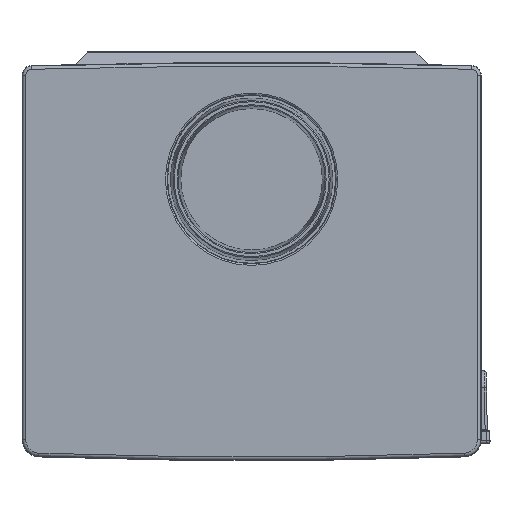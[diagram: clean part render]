
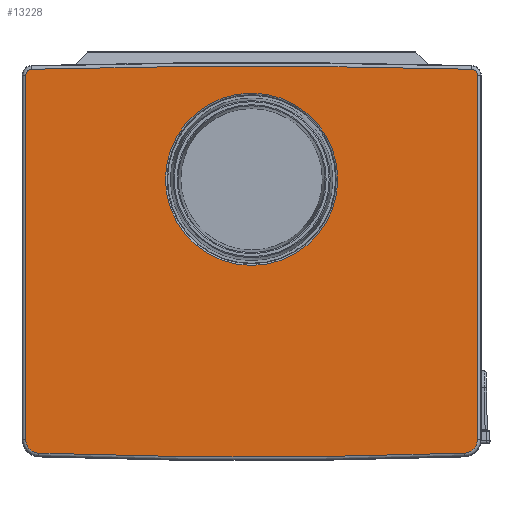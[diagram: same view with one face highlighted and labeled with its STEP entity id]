
A CAD part, top view. The second image highlights one B-rep face of the part: STEP entity #13228.
In plain terms, the highlighted planar face has unit normal (0, 0, 1).
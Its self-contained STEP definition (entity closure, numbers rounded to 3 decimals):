
#332=CIRCLE('',#15059,79.01);
#333=CIRCLE('',#15060,12.546);
#334=CIRCLE('',#15061,5.56);
#335=CIRCLE('',#15062,7496.577);
#336=CIRCLE('',#15063,5.56);
#337=CIRCLE('',#15064,12.546);
#338=CIRCLE('',#15065,5496.577);
#1475=LINE('',#21635,#2677);
#1476=LINE('',#21643,#2678);
#2677=VECTOR('',#16812,1000.);
#2678=VECTOR('',#16819,1000.);
#4085=ORIENTED_EDGE('',*,*,#8009,.T.);
#4086=ORIENTED_EDGE('',*,*,#8010,.T.);
#4087=ORIENTED_EDGE('',*,*,#8011,.T.);
#4088=ORIENTED_EDGE('',*,*,#8012,.T.);
#4089=ORIENTED_EDGE('',*,*,#8013,.T.);
#4090=ORIENTED_EDGE('',*,*,#8014,.T.);
#4091=ORIENTED_EDGE('',*,*,#8015,.T.);
#4092=ORIENTED_EDGE('',*,*,#8016,.T.);
#4093=ORIENTED_EDGE('',*,*,#8017,.T.);
#8009=EDGE_CURVE('',#9955,#9955,#332,.T.);
#8010=EDGE_CURVE('',#9956,#9957,#333,.F.);
#8011=EDGE_CURVE('',#9957,#9958,#1475,.F.);
#8012=EDGE_CURVE('',#9958,#9959,#334,.F.);
#8013=EDGE_CURVE('',#9959,#9960,#335,.F.);
#8014=EDGE_CURVE('',#9960,#9961,#336,.F.);
#8015=EDGE_CURVE('',#9961,#9962,#1476,.F.);
#8016=EDGE_CURVE('',#9962,#9963,#337,.F.);
#8017=EDGE_CURVE('',#9963,#9956,#338,.F.);
#9955=VERTEX_POINT('',#21631);
#9956=VERTEX_POINT('',#21633);
#9957=VERTEX_POINT('',#21634);
#9958=VERTEX_POINT('',#21636);
#9959=VERTEX_POINT('',#21638);
#9960=VERTEX_POINT('',#21640);
#9961=VERTEX_POINT('',#21642);
#9962=VERTEX_POINT('',#21644);
#9963=VERTEX_POINT('',#21646);
#11050=EDGE_LOOP('',(#4085));
#11051=EDGE_LOOP('',(#4086,#4087,#4088,#4089,#4090,#4091,#4092,#4093));
#11981=FACE_BOUND('',#11050,.T.);
#11982=FACE_BOUND('',#11051,.T.);
#12840=PLANE('',#15058);
#13228=ADVANCED_FACE('',(#11981,#11982),#12840,.F.);
#15058=AXIS2_PLACEMENT_3D('',#21629,#16806,#16807);
#15059=AXIS2_PLACEMENT_3D('',#21630,#16808,#16809);
#15060=AXIS2_PLACEMENT_3D('',#21632,#16810,#16811);
#15061=AXIS2_PLACEMENT_3D('',#21637,#16813,#16814);
#15062=AXIS2_PLACEMENT_3D('',#21639,#16815,#16816);
#15063=AXIS2_PLACEMENT_3D('',#21641,#16817,#16818);
#15064=AXIS2_PLACEMENT_3D('',#21645,#16820,#16821);
#15065=AXIS2_PLACEMENT_3D('',#21647,#16822,#16823);
#16806=DIRECTION('',(0.,0.,-1.));
#16807=DIRECTION('',(-1.,0.,0.));
#16808=DIRECTION('',(0.,0.,-1.));
#16809=DIRECTION('',(-1.,0.,0.));
#16810=DIRECTION('',(0.,0.,-1.));
#16811=DIRECTION('',(-1.,0.,0.));
#16812=DIRECTION('',(0.,-1.,0.));
#16813=DIRECTION('',(0.,0.,-1.));
#16814=DIRECTION('',(-1.,0.,0.));
#16815=DIRECTION('',(0.,0.,-1.));
#16816=DIRECTION('',(-1.,0.,0.));
#16817=DIRECTION('',(0.,0.,-1.));
#16818=DIRECTION('',(-1.,0.,0.));
#16819=DIRECTION('',(0.,1.,0.));
#16820=DIRECTION('',(0.,0.,-1.));
#16821=DIRECTION('',(-1.,0.,0.));
#16822=DIRECTION('',(0.,0.,-1.));
#16823=DIRECTION('',(-1.,0.,0.));
#21629=CARTESIAN_POINT('',(-201.517,308.306,490.));
#21630=CARTESIAN_POINT('',(0.,213.,490.));
#21631=CARTESIAN_POINT('',(-79.01,213.,490.));
#21632=CARTESIAN_POINT('',(194.53,-25.579,490.));
#21633=CARTESIAN_POINT('',(194.969,-38.118,490.));
#21634=CARTESIAN_POINT('',(207.077,-25.571,490.));
#21635=CARTESIAN_POINT('',(207.077,308.302,490.));
#21636=CARTESIAN_POINT('',(207.077,308.302,490.));
#21637=CARTESIAN_POINT('',(201.517,308.306,490.));
#21638=CARTESIAN_POINT('',(201.664,313.864,490.));
#21639=CARTESIAN_POINT('',(0.,-7180.,490.));
#21640=CARTESIAN_POINT('',(-201.662,313.864,490.));
#21641=CARTESIAN_POINT('',(-201.517,308.306,490.));
#21642=CARTESIAN_POINT('',(-207.077,308.303,490.));
#21643=CARTESIAN_POINT('',(-207.077,-25.571,490.));
#21644=CARTESIAN_POINT('',(-207.077,-25.573,490.));
#21645=CARTESIAN_POINT('',(-194.53,-25.579,490.));
#21646=CARTESIAN_POINT('',(-194.967,-38.118,490.));
#21647=CARTESIAN_POINT('',(0.,5455.,490.));
